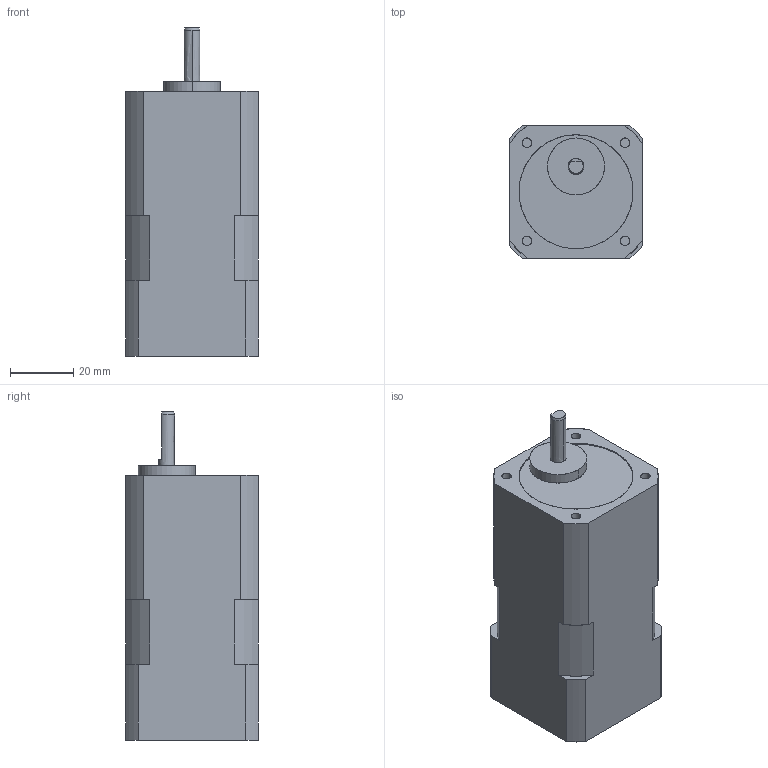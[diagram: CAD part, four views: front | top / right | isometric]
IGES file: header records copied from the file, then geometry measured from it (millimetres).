
Start section: SolidWorks IGES file using analytic representation for surfaces
Global section: file name: \\192.168.10.221\kari\7666\PMSB-B42D2ESD\PMSB-B42D2ESD_.IGS; native system: SolidWorks 2009; preprocessor: SolidWorks 2009; author: user0051; date: 110919.125543; units: millimetre
Bounding box: 42 x 42 x 103.8 mm (x, y, z)
Surface area: 18198.7 mm2 (no closed solid volume)
Topology: 0 solids, 0 shells, 79 faces, 941 edges, 941 vertices
Faces by surface type: bspline 48, revolution 31
